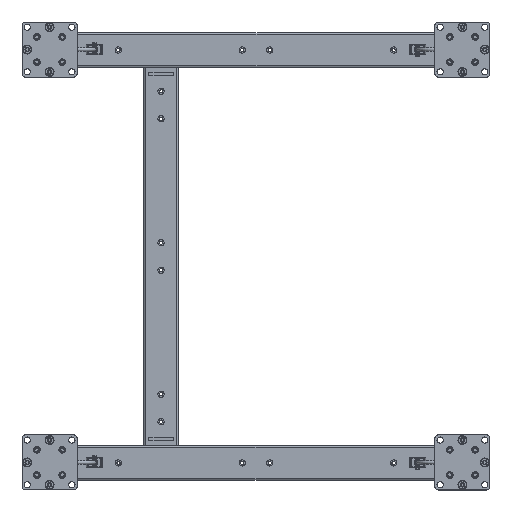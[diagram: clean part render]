
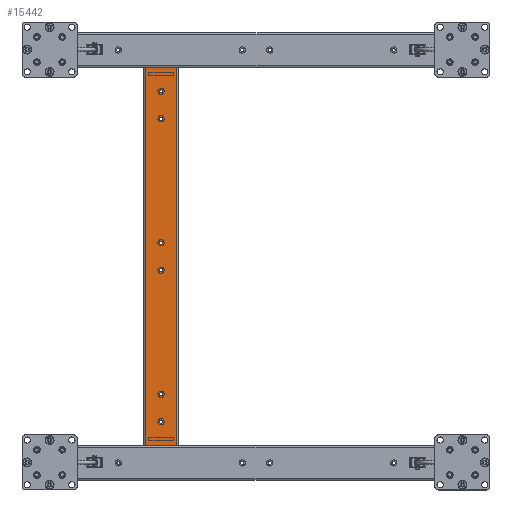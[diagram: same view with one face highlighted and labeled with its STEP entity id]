
A CAD part, top view. The second image highlights one B-rep face of the part: STEP entity #15442.
In plain terms, the highlighted planar face has unit normal (0, 0, 1) as drawn and (1, 0, 0) by its records, which use the part's own axes.
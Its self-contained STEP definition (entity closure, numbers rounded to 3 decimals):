
#1406=CIRCLE('',#21556,2.459);
#1407=CIRCLE('',#21557,2.459);
#1408=CIRCLE('',#21558,2.459);
#1409=CIRCLE('',#21559,2.459);
#1410=CIRCLE('',#21560,2.459);
#1411=CIRCLE('',#21561,2.459);
#5170=ORIENTED_EDGE('',*,*,#7517,.F.);
#5171=ORIENTED_EDGE('',*,*,#7518,.F.);
#5172=ORIENTED_EDGE('',*,*,#7519,.F.);
#5173=ORIENTED_EDGE('',*,*,#7520,.F.);
#5174=ORIENTED_EDGE('',*,*,#7521,.F.);
#5175=ORIENTED_EDGE('',*,*,#7522,.F.);
#5176=ORIENTED_EDGE('',*,*,#7523,.F.);
#5177=ORIENTED_EDGE('',*,*,#7516,.F.);
#5178=ORIENTED_EDGE('',*,*,#7524,.T.);
#5179=ORIENTED_EDGE('',*,*,#7525,.T.);
#7516=EDGE_CURVE('',#8999,#8998,#10417,.T.);
#7517=EDGE_CURVE('',#9000,#9000,#1406,.T.);
#7518=EDGE_CURVE('',#9001,#9001,#1407,.T.);
#7519=EDGE_CURVE('',#9002,#9002,#1408,.T.);
#7520=EDGE_CURVE('',#9003,#9003,#1409,.T.);
#7521=EDGE_CURVE('',#9004,#9004,#1410,.T.);
#7522=EDGE_CURVE('',#9005,#9005,#1411,.T.);
#7523=EDGE_CURVE('',#8998,#9006,#10418,.T.);
#7524=EDGE_CURVE('',#8999,#9007,#10419,.T.);
#7525=EDGE_CURVE('',#9007,#9006,#10420,.T.);
#8998=VERTEX_POINT('',#32008);
#8999=VERTEX_POINT('',#32010);
#9000=VERTEX_POINT('',#32014);
#9001=VERTEX_POINT('',#32016);
#9002=VERTEX_POINT('',#32018);
#9003=VERTEX_POINT('',#32020);
#9004=VERTEX_POINT('',#32022);
#9005=VERTEX_POINT('',#32024);
#9006=VERTEX_POINT('',#32026);
#9007=VERTEX_POINT('',#32028);
#10417=LINE('',#32011,#11745);
#10418=LINE('',#32025,#11746);
#10419=LINE('',#32027,#11747);
#10420=LINE('',#32029,#11748);
#11745=VECTOR('',#25575,1000.);
#11746=VECTOR('',#25590,1000.);
#11747=VECTOR('',#25591,1000.);
#11748=VECTOR('',#25592,1000.);
#12728=EDGE_LOOP('',(#5170));
#12729=EDGE_LOOP('',(#5171));
#12730=EDGE_LOOP('',(#5172));
#12731=EDGE_LOOP('',(#5173));
#12732=EDGE_LOOP('',(#5174));
#12733=EDGE_LOOP('',(#5175));
#12734=EDGE_LOOP('',(#5176,#5177,#5178,#5179));
#13916=FACE_BOUND('',#12728,.T.);
#13917=FACE_BOUND('',#12729,.T.);
#13918=FACE_BOUND('',#12730,.T.);
#13919=FACE_BOUND('',#12731,.T.);
#13920=FACE_BOUND('',#12732,.T.);
#13921=FACE_BOUND('',#12733,.T.);
#13922=FACE_BOUND('',#12734,.T.);
#14661=PLANE('',#21555);
#15442=ADVANCED_FACE('',(#13916,#13917,#13918,#13919,#13920,#13921,#13922),
#14661,.T.);
#21555=AXIS2_PLACEMENT_3D('',#32012,#25576,#25577);
#21556=AXIS2_PLACEMENT_3D('',#32013,#25578,#25579);
#21557=AXIS2_PLACEMENT_3D('',#32015,#25580,#25581);
#21558=AXIS2_PLACEMENT_3D('',#32017,#25582,#25583);
#21559=AXIS2_PLACEMENT_3D('',#32019,#25584,#25585);
#21560=AXIS2_PLACEMENT_3D('',#32021,#25586,#25587);
#21561=AXIS2_PLACEMENT_3D('',#32023,#25588,#25589);
#25575=DIRECTION('',(0.,-1.,0.));
#25576=DIRECTION('',(1.,0.,0.));
#25577=DIRECTION('',(0.,0.,-1.));
#25578=DIRECTION('',(1.,0.,0.));
#25579=DIRECTION('',(0.,1.,0.));
#25580=DIRECTION('',(1.,0.,0.));
#25581=DIRECTION('',(0.,1.,0.));
#25582=DIRECTION('',(1.,0.,0.));
#25583=DIRECTION('',(0.,1.,0.));
#25584=DIRECTION('',(1.,0.,0.));
#25585=DIRECTION('',(0.,1.,0.));
#25586=DIRECTION('',(1.,0.,0.));
#25587=DIRECTION('',(0.,1.,0.));
#25588=DIRECTION('',(1.,0.,0.));
#25589=DIRECTION('',(0.,1.,0.));
#25590=DIRECTION('',(0.,0.,1.));
#25591=DIRECTION('',(0.,0.,1.));
#25592=DIRECTION('',(0.,-1.,0.));
#32008=CARTESIAN_POINT('',(40.,0.,-23.));
#32010=CARTESIAN_POINT('',(40.,550.,-23.));
#32011=CARTESIAN_POINT('',(40.,550.,-23.));
#32012=CARTESIAN_POINT('',(40.,550.,-23.));
#32013=CARTESIAN_POINT('',(40.,515.,0.));
#32014=CARTESIAN_POINT('',(40.,517.459,0.));
#32015=CARTESIAN_POINT('',(40.,475.,0.));
#32016=CARTESIAN_POINT('',(40.,477.459,0.));
#32017=CARTESIAN_POINT('',(40.,295.,0.));
#32018=CARTESIAN_POINT('',(40.,297.459,0.));
#32019=CARTESIAN_POINT('',(40.,255.,0.));
#32020=CARTESIAN_POINT('',(40.,257.459,0.));
#32021=CARTESIAN_POINT('',(40.,75.,0.));
#32022=CARTESIAN_POINT('',(40.,77.459,0.));
#32023=CARTESIAN_POINT('',(40.,35.,0.));
#32024=CARTESIAN_POINT('',(40.,37.459,0.));
#32025=CARTESIAN_POINT('',(40.,0.,-23.));
#32026=CARTESIAN_POINT('',(40.,0.,23.));
#32027=CARTESIAN_POINT('',(40.,550.,-23.));
#32028=CARTESIAN_POINT('',(40.,550.,23.));
#32029=CARTESIAN_POINT('',(40.,550.,23.));
